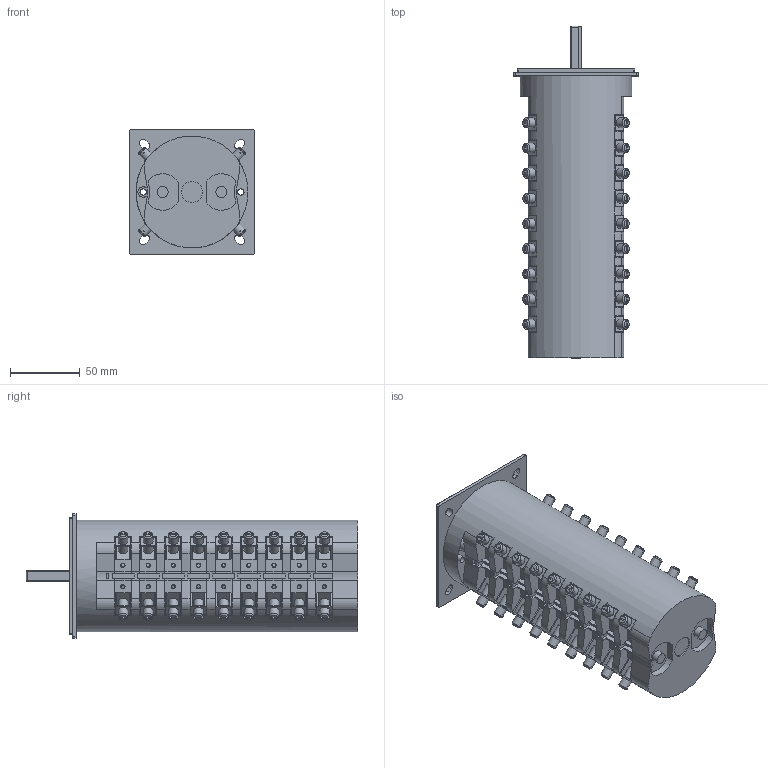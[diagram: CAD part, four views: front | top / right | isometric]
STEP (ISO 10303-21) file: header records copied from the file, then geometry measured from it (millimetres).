
FILE_DESCRIPTION(/* description */ (''),/* implementation_level */ '2;1');
FILE_NAME(/* name */ '4G80-U_9_korpusow.stp',/* time_stamp */ '2021-07-22T07:30:38+02:00',/* author */ (''),/* organization */ (''),/* preprocessor_version */ 'ST-DEVELOPER v18.1',/* originating_system */ 'SIEMENS PLM Software NX 1965',/* authorisation */ '');
FILE_SCHEMA (('AUTOMOTIVE_DESIGN { 1 0 10303 214 3 1 1 1 }'));
Length unit declared in the file: millimetre
Products named in the file (1): 4G80-U_9_korpusow_stp
Bounding box: 89.2 x 237.25 x 89.2 mm (x, y, z)
Volume: 835131.2 mm3; surface area: 168534.1 mm2
Topology: 1 solids, 65 shells, 1720 faces, 4418 edges, 2948 vertices
Faces by surface type: plane 1252, cylinder 357, cone 108, bspline 3
Full cylindrical faces by diameter (mm): 2.5 x36, 4.5 x2, 7 x72, 7.5 x2, 8 x4, 8.5 x2, 11.6 x2, 12 x3, 15 x1, 80 x1
Entity records: 53059 total; most frequent: CARTESIAN_POINT 12114, DIRECTION 8257, ORIENTED_EDGE 8252, EDGE_CURVE 4126, LINE 2977, VECTOR 2977, VERTEX_POINT 2829, AXIS2_PLACEMENT_3D 2640
